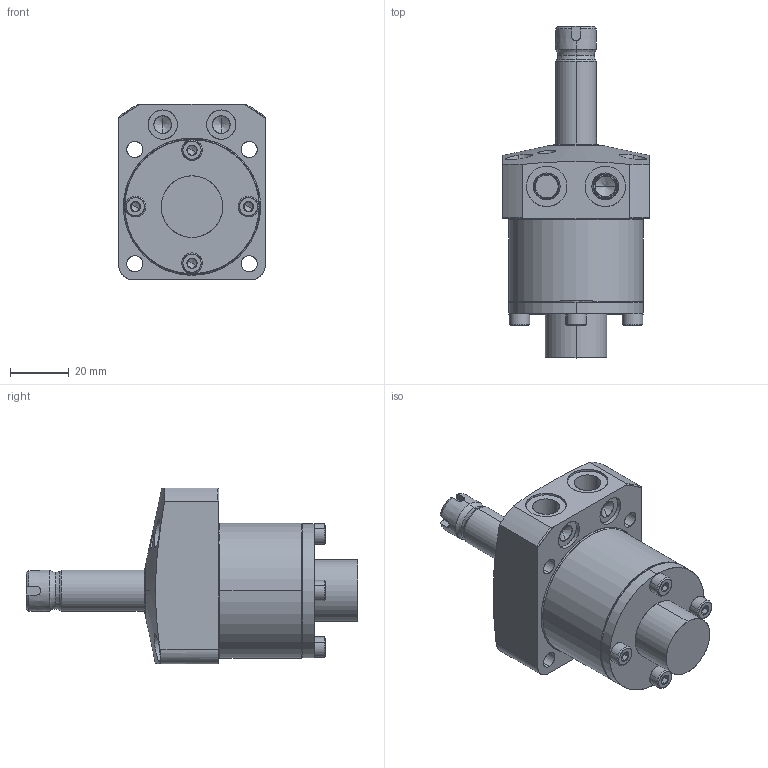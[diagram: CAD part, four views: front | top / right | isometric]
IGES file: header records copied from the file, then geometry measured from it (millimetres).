
Start section: SolidWorks IGES file using analytic representation for surfaces
Global section: file name: L:\電子カタログ-3D_IGES\WHA0320-2AR-F.igs; native system: SolidWorks 2009; preprocessor: SolidWorks 2009; author: D211; date: 100416.112714; units: millimetre
Bounding box: 50 x 113.3 x 60 mm (x, y, z)
Surface area: 27493.4 mm2 (no closed solid volume)
Topology: 0 solids, 0 shells, 276 faces, 4471 edges, 4454 vertices
Faces by surface type: revolution 171, bspline 105
